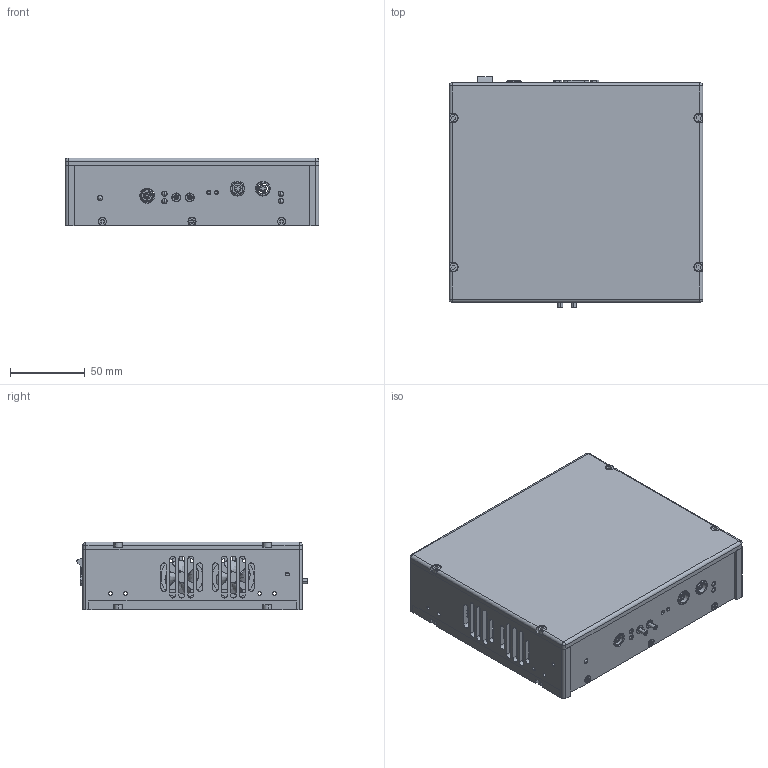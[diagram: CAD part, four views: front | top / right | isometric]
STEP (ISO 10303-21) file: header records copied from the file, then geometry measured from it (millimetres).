
FILE_DESCRIPTION (( 'STEP AP203' ), '1' );
FILE_NAME ('E70.D2S-L.STEP', '2025-06-04T02:59:22', ( 'China' ), ( 'Home' ), 'SwSTEP 2.0', 'SolidWorks 2016', '' );
FILE_SCHEMA (( 'CONFIG_CONTROL_DESIGN' ));
Products named in the file (1): E70.D2S-L
Bounding box: 170 x 154.53 x 45.5 mm (x, y, z)
Surface area: 162656.2 mm2 (no closed solid volume)
Topology: 0 solids, 61 shells, 886 faces, 3425 edges, 2562 vertices
Faces by surface type: plane 394, cylinder 358, bspline 51, cone 50, sphere 17, torus 16
Entity records: 57648 total; most frequent: CARTESIAN_POINT 28074, DIRECTION 6447, ORIENTED_EDGE 5115, EDGE_CURVE 3396, VERTEX_POINT 2552, AXIS2_PLACEMENT_3D 2351, LINE 1745, VECTOR 1745
